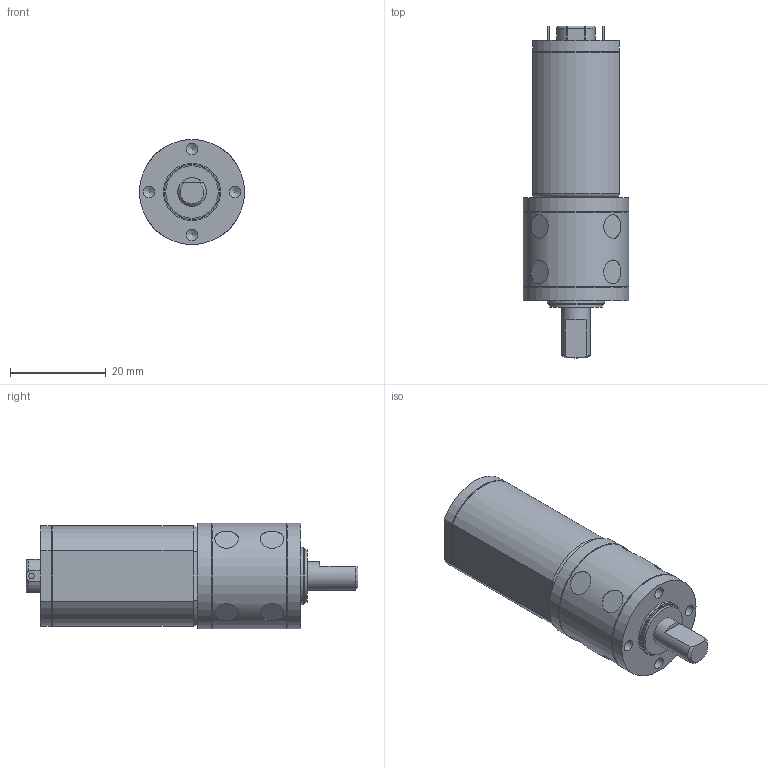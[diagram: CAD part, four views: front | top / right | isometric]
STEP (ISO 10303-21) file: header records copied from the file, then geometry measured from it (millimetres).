
FILE_DESCRIPTION((''),'2;1');
FILE_NAME('C:\Documents and Settings\SSEGAWA\デスクトップ\TP-2133C-KP-1.STP','2013-06-14T16:59:00',('SSEGAWA'),(''),'Autodesk Inventor 2010','Autodesk Inventor 2010','');
FILE_SCHEMA(('CONFIG_CONTROL_DESIGN'));
Length unit declared in the file: millimetre
Products named in the file (3): tp_2133c,d_kp_4~4.7_s00_12,24; kp_1; tp_2133
Assembly tree (2 placements, depth 2):
  tp_2133c,d_kp_4~4.7_s00_12,24
    kp_1
    tp_2133
Bounding box: 22 x 69.5 x 22 mm (x, y, z)
Volume: 19455.4 mm3; surface area: 5643.2 mm2
Topology: 2 solids, 2 shells, 104 faces, 226 edges, 149 vertices
Faces by surface type: plane 39, cylinder 34, bspline 21, torus 5, sphere 4, cone 1
Full cylindrical faces by diameter (mm): 1.2 x1, 2 x1, 5 x4, 6 x1, 6.5 x1, 11 x1, 11.5 x1, 12 x1, 21.6 x2, 22 x3
Entity records: 3203 total; most frequent: CARTESIAN_POINT 1053, DIRECTION 418, ORIENTED_EDGE 350, AXIS2_PLACEMENT_3D 177, EDGE_CURVE 175, EDGE_LOOP 165, VERTEX_POINT 132, FACE_OUTER_BOUND 104
